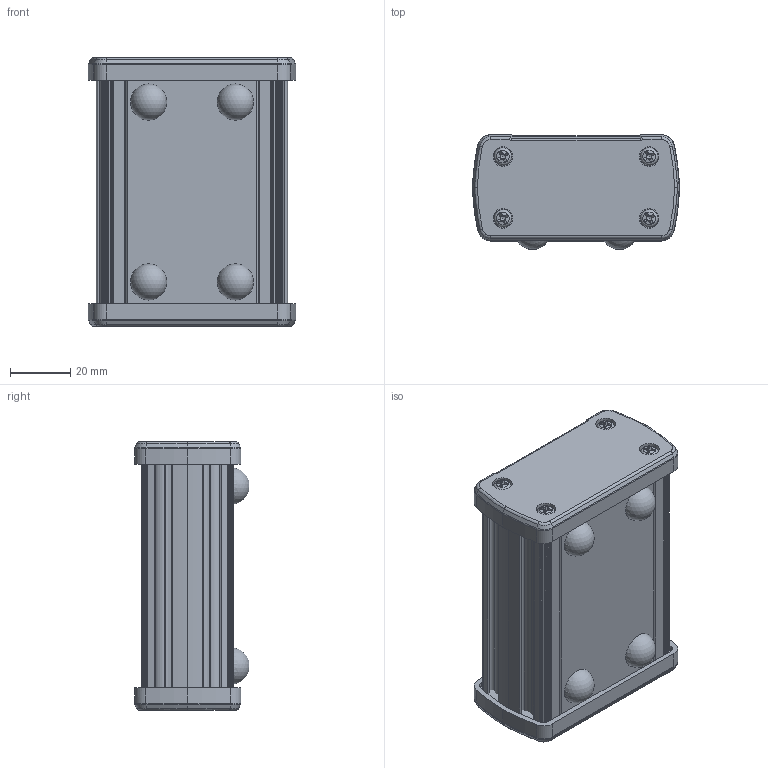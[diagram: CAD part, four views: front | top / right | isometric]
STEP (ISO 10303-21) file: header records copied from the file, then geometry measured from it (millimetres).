
FILE_DESCRIPTION (( 'STEP AP214' ), '1' );
FILE_NAME ('EX-51-01.STEP', '2021-06-29T15:08:50', ( '' ), ( '' ), 'SwSTEP 2.0', 'SolidWorks 2016', '' );
FILE_SCHEMA (( 'AUTOMOTIVE_DESIGN' ));
Length unit declared in the file: inch
Products named in the file (7): EX-51-01; EX-50B-52B_EX-51B-01; EX-01W; EX-01A; pan cross head_ks_EX-01S-01; EX-50E_EX-50E-01; EX-50G
Assembly tree (25 placements, depth 2):
  EX-51-01
    EX-50B-52B_EX-51B-01
    EX-50E_EX-50E-01  x2
    EX-50G  x2
    pan cross head_ks_EX-01S-01  x8
    EX-01W  x8
    EX-01A  x4
Bounding box: 68.7 x 38.06 x 89.49 mm (x, y, z)
Volume: 67053.7 mm3; surface area: 59795.9 mm2
Topology: 25 solids, 25 shells, 1172 faces, 2794 edges, 1686 vertices
Faces by surface type: cylinder 432, plane 424, torus 200, cone 80, sphere 36
Full cylindrical faces by diameter (mm): 3 x8, 3.2 x8, 3.5 x8, 5 x8, 5.4 x8, 6.5 x16
Entity records: 19189 total; most frequent: CARTESIAN_POINT 4053, DIRECTION 3226, ORIENTED_EDGE 2964, EDGE_CURVE 1482, AXIS2_PLACEMENT_3D 1232, VERTEX_POINT 936, VECTOR 762, LINE 762
